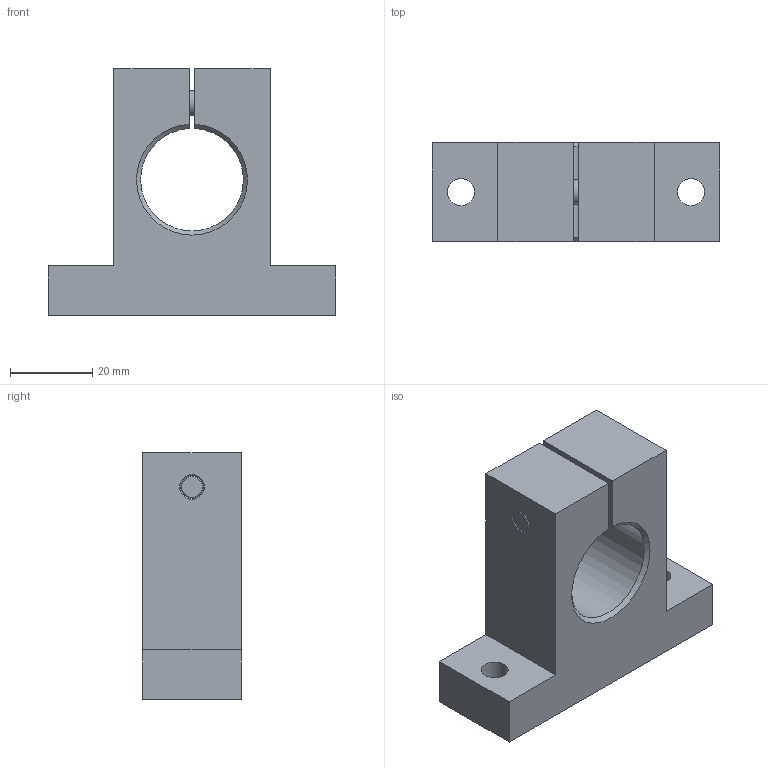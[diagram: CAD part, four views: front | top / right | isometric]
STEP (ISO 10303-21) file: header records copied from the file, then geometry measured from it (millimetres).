
FILE_DESCRIPTION( ( 'Unknown' ), '1' );
FILE_NAME( 'D:/累诀/己绕皋墨飘肺葱胶/11-04-06_档搁累己/04_箕橇飘/SK/SK 25.stp', 'Unknown', ( 'Unknown' ), ( 'Unknown' ), 'PSStep 11.0', 'Unknown', ' ' );
FILE_SCHEMA( ( 'AUTOMOTIVE_DESIGN { 1 0 10303 214 1 1 1 1 }' ) );
Length unit declared in the file: millimetre
Products named in the file (1): 1
Bounding box: 70 x 24 x 60 mm (x, y, z)
Volume: 50772.4 mm3; surface area: 13556.1 mm2
Topology: 1 solids, 1 shells, 38 faces, 93 edges, 62 vertices
Faces by surface type: plane 24, cylinder 8, cone 5, torus 1
Full cylindrical faces by diameter (mm): 3.12 x1, 6 x2, 6.6 x3, 6.732 x1
Entity records: 1368 total; most frequent: CARTESIAN_POINT 188, DIRECTION 174, ORIENTED_EDGE 156, EDGE_CURVE 78, AXIS2_PLACEMENT_3D 61, EDGE_LOOP 60, VERTEX_POINT 59, LINE 52
